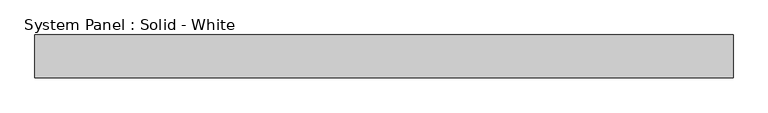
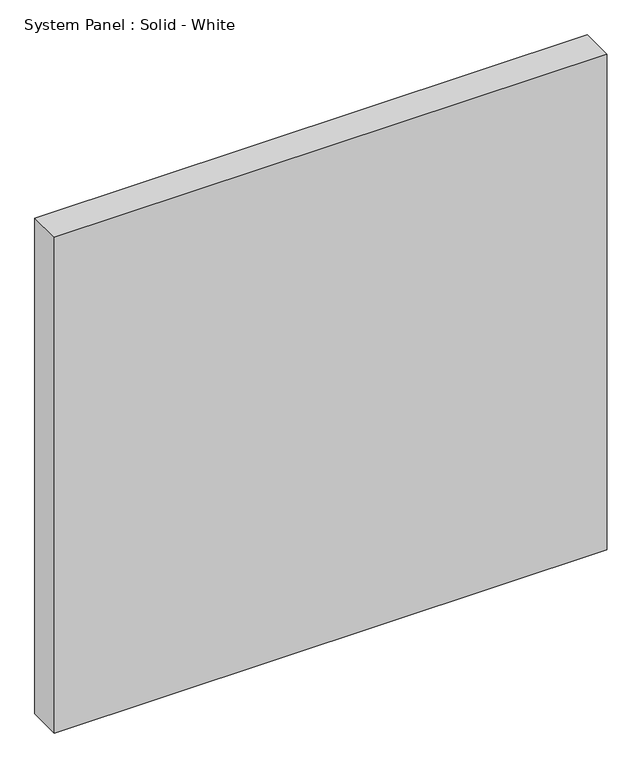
"""IFC4 building model written with IfcOpenShell, lengths in millimetres: plate geometry, System Panel : Solid - White."""

import ifcopenshell
import ifcopenshell.guid

model = None  # the IFC model being written
_history = None  # IfcOwnerHistory: only IFC2X3 demands one
_inside = {}  # id of a spatial element -> (the spatial element, [elements in it])
_under = {}  # id of a project, library or spatial element -> (it, [spatial elements below it])
_declared = {}  # id of a project -> (the project, [libraries it declares])
_typed = {}  # id of a type object -> (the type object, [elements of that type])
_made_of = {}  # id of a material, layer set ... -> (it, [elements and type objects made of it])


def new_model(schema):
    """Start an empty IFC model of exactly this schema.

    Asked for "IFC4X3", IfcOpenShell would pick the latest addendum, in which some entities
    have other attributes; the version numbers below select the first issue.
    IFC2X3 requires an IfcOwnerHistory on every rooted entity: one is made here for all.
    """
    global model, _history
    if schema == "IFC4X3":
        model = ifcopenshell.file(schema_version=(4, 3, 0, 0))
    else:
        model = ifcopenshell.file(schema=schema)
    _inside.clear()
    _under.clear()
    _declared.clear()
    _typed.clear()
    _made_of.clear()
    _history = None
    if model.schema == "IFC2X3":
        org = make("IfcOrganization", Name="unknown")
        user = make(
            "IfcPersonAndOrganization",
            ThePerson=make("IfcPerson", FamilyName="unknown"),
            TheOrganization=org,
        )
        app = make(
            "IfcApplication",
            ApplicationDeveloper=org,
            Version="unknown",
            ApplicationFullName="unknown",
            ApplicationIdentifier="unknown",
        )
        _history = make(
            "IfcOwnerHistory",
            OwningUser=user,
            OwningApplication=app,
            ChangeAction="ADDED",
            CreationDate=0,
        )
    return model


def make(cls, **values):
    """One entity of the class cls with the attributes given. An attribute that is None is left unset."""
    return model.create_entity(
        cls, **{name: value for name, value in values.items() if value is not None}
    )


def rooted(cls, **values):
    """An entity with a GlobalId (a new one), such as an element, a storey or a relation."""
    return make(cls, GlobalId=ifcopenshell.guid.new(), OwnerHistory=_history, **values)


def si_unit(unit_type, name, prefix=None):
    """IfcSIUnit, for example si_unit("LENGTHUNIT", "METRE", prefix="MILLI")."""
    return make("IfcSIUnit", UnitType=unit_type, Prefix=prefix, Name=name)


def assignment(units):
    """IfcUnitAssignment: the units of a project."""
    return None if units is None else make("IfcUnitAssignment", Units=units)


def point(xyz):
    """IfcCartesianPoint."""
    return None if xyz is None else make("IfcCartesianPoint", Coordinates=xyz)


def direction(xyz):
    """IfcDirection."""
    return None if xyz is None else make("IfcDirection", DirectionRatios=xyz)


def frame(location, z_axis=None, x_axis=None):
    """IfcAxis2Placement3D, a coordinate frame: its origin and axes. An axis left out is left unset."""
    return make(
        "IfcAxis2Placement3D",
        Location=point(location),
        Axis=direction(z_axis),
        RefDirection=direction(x_axis),
    )


def origin():
    """The frame at (0, 0, 0) with its axes left unset."""
    return frame((0.0, 0.0, 0.0))


def origin_with_axes():
    """The frame at (0, 0, 0) with the z axis (0, 0, 1) and the x axis (1, 0, 0) written out."""
    return frame((0.0, 0.0, 0.0), z_axis=(0.0, 0.0, 1.0), x_axis=(1.0, 0.0, 0.0))


def place(relative_to, where):
    """IfcLocalPlacement: puts the frame where relative to a parent placement (None: the world)."""
    return make(
        "IfcLocalPlacement", PlacementRelTo=relative_to, RelativePlacement=where
    )


def context(
    kind, dimensions, precision=None, world=None, true_north=None, identifier=None
):
    """IfcGeometricRepresentationContext, for example the 3D "Model" context."""
    return make(
        "IfcGeometricRepresentationContext",
        ContextIdentifier=identifier,
        ContextType=kind,
        CoordinateSpaceDimension=dimensions,
        Precision=precision,
        WorldCoordinateSystem=world,
        TrueNorth=true_north,
    )


def project(units=None, contexts=None):
    """IfcProject with its units and contexts."""
    return rooted(
        "IfcProject",
        Name="project",
        RepresentationContexts=contexts,
        UnitsInContext=assignment(units),
    )


def spatial(cls, under=None, at=None, **own):
    """A site, building, storey or space (cls), placed at a placement, below another one or the project."""
    s = rooted(cls, ObjectPlacement=at, **own)
    if under is not None:
        _under.setdefault(under.id(), (under, []))[1].append(s)
    return s


def polyline(points):
    """IfcPolyline through the points."""
    return make("IfcPolyline", Points=[point(p) for p in points])


def outline(outer, holes=None, kind="AREA"):
    """IfcArbitraryClosedProfileDef: a profile drawn as a closed curve; with holes, ...WithVoids."""
    if holes is None:
        return make("IfcArbitraryClosedProfileDef", ProfileType=kind, OuterCurve=outer)
    return make(
        "IfcArbitraryProfileDefWithVoids",
        ProfileType=kind,
        OuterCurve=outer,
        InnerCurves=holes,
    )


def extrude(swept, where, along, depth):
    """IfcExtrudedAreaSolid: the profile swept, set in the frame where, extruded along a direction by depth."""
    return make(
        "IfcExtrudedAreaSolid",
        SweptArea=swept,
        Position=where,
        ExtrudedDirection=direction(along),
        Depth=depth,
    )


def shape(context_of_items, identifier, shape_type, items):
    """IfcShapeRepresentation: the items that make up one representation, for example the "Body"."""
    return make(
        "IfcShapeRepresentation",
        ContextOfItems=context_of_items,
        RepresentationIdentifier=identifier,
        RepresentationType=shape_type,
        Items=items,
    )


def source(mapping_origin, context_of_items, identifier, shape_type, items):
    """IfcRepresentationMap: a shape defined once, which mapped items show again and again."""
    return make(
        "IfcRepresentationMap",
        MappingOrigin=mapping_origin,
        MappedRepresentation=shape(context_of_items, identifier, shape_type, items),
    )


def transform(
    local_origin,
    x_axis=None,
    y_axis=None,
    z_axis=None,
    scale=None,
    scale2=None,
    scale3=None,
    uniform=True,
):
    """IfcCartesianTransformationOperator3D, or its non-uniform kind. x_axis, y_axis, z_axis: its Axis1, 2, 3."""
    if uniform:
        return make(
            "IfcCartesianTransformationOperator3D",
            Axis1=direction(x_axis),
            Axis2=direction(y_axis),
            LocalOrigin=point(local_origin),
            Scale=scale,
            Axis3=direction(z_axis),
        )
    return make(
        "IfcCartesianTransformationOperator3DnonUniform",
        Axis1=direction(x_axis),
        Axis2=direction(y_axis),
        LocalOrigin=point(local_origin),
        Scale=scale,
        Axis3=direction(z_axis),
        Scale2=scale2,
        Scale3=scale3,
    )


def mapped(mapping_source, mapping_target):
    """IfcMappedItem: shows the shape of a source again, moved by a transform."""
    return make(
        "IfcMappedItem", MappingSource=mapping_source, MappingTarget=mapping_target
    )


def made_of(thing, what):
    """Note that an element or type object is made of a material, layer set ...; save() writes the relation."""
    if what is not None:
        _made_of.setdefault(what.id(), (what, []))[1].append(thing)
    return thing


def element(
    cls,
    number,
    at=None,
    inside=None,
    cuts=None,
    type_object=None,
    material=None,
    context=None,
    identifier="Body",
    shape_type=None,
    held_by="IfcProductDefinitionShape",
    body=None,
    shapes=None,
    **own,
):
    """One element of the class cls, such as IfcWall. Its Tag is "e" and its number.

    at: its placement. inside: the storey or other place that contains it. cuts: it is an
    opening in that element (IfcRelVoidsElement). A single representation is given by context,
    identifier, shape_type and body (its items); several are given by shapes. held_by: the class
    of the entity that holds the representations. save() writes the other relations.
    """
    e = rooted(cls, Tag="e%d" % number, ObjectPlacement=at, **own)
    if body is not None:
        shapes = [shape(context, identifier, shape_type, body)]
    if shapes is not None:
        e.Representation = make(held_by, Representations=shapes)
    if inside is not None:
        _inside.setdefault(inside.id(), (inside, []))[1].append(e)
    if cuts is not None:
        rooted(
            "IfcRelVoidsElement", RelatingBuildingElement=cuts, RelatedOpeningElement=e
        )
    if type_object is not None:
        _typed.setdefault(type_object.id(), (type_object, []))[1].append(e)
    return made_of(e, material)


def aggregate(whole, parts):
    """IfcRelAggregates: a whole, such as a stair, and the parts it consists of."""
    return rooted("IfcRelAggregates", RelatingObject=whole, RelatedObjects=parts)


def save(model, path):
    """Write the relations noted so far, then the file.

    IfcRelAggregates (storeys below a building ...), IfcRelContainedInSpatialStructure (elements
    in a storey), IfcRelDefinesByType, IfcRelAssociatesMaterial and IfcRelDeclares: one each for
    every whole, place, type object, material and project.
    """
    for whole, parts in _under.values():
        aggregate(whole, parts)
    for where, things in _inside.values():
        rooted(
            "IfcRelContainedInSpatialStructure",
            RelatedElements=things,
            RelatingStructure=where,
        )
    for kind, things in _typed.values():
        rooted("IfcRelDefinesByType", RelatedObjects=things, RelatingType=kind)
    for what, things in _made_of.values():
        rooted("IfcRelAssociatesMaterial", RelatedObjects=things, RelatingMaterial=what)
    for by, libraries in _declared.values():
        rooted("IfcRelDeclares", RelatingContext=by, RelatedDefinitions=libraries)
    model.write(path)


def system_panel_solid_white_0fc16f05(model_context):
    return source(origin(), model_context, "Body", "SweptSolid", [
        extrude(outline(polyline([(519.3392857, -19.05), (-519.3392857, -19.05), (-519.3392857, 44.45), (519.3392857, 44.45), (519.3392857, -19.05)])), origin_with_axes(), (0.0, 0.0, 1.0), 984.3895219),
    ])


if __name__ == "__main__":
    model = new_model("IFC4")
    model_context = context("Model", 3, world=origin())
    ifc_project = project(units=[si_unit("LENGTHUNIT", "METRE", prefix="MILLI")], contexts=[model_context])
    site = spatial("IfcSite", under=ifc_project)
    building = spatial("IfcBuilding", under=site)
    placement = place(None, origin())
    system_panel_solid_white_shape = system_panel_solid_white_0fc16f05(model_context)
    element("IfcPlate", 1, ObjectType="System Panel : Solid - White", at=placement, inside=building, context=model_context, shape_type="MappedRepresentation", body=[
        mapped(system_panel_solid_white_shape, transform((0.0, 0.0, 0.0), x_axis=(1.0, 0.0, 0.0), y_axis=(0.0, 1.0, 0.0), z_axis=(0.0, 0.0, 1.0))),
    ])
    save(model, "model.ifc")
